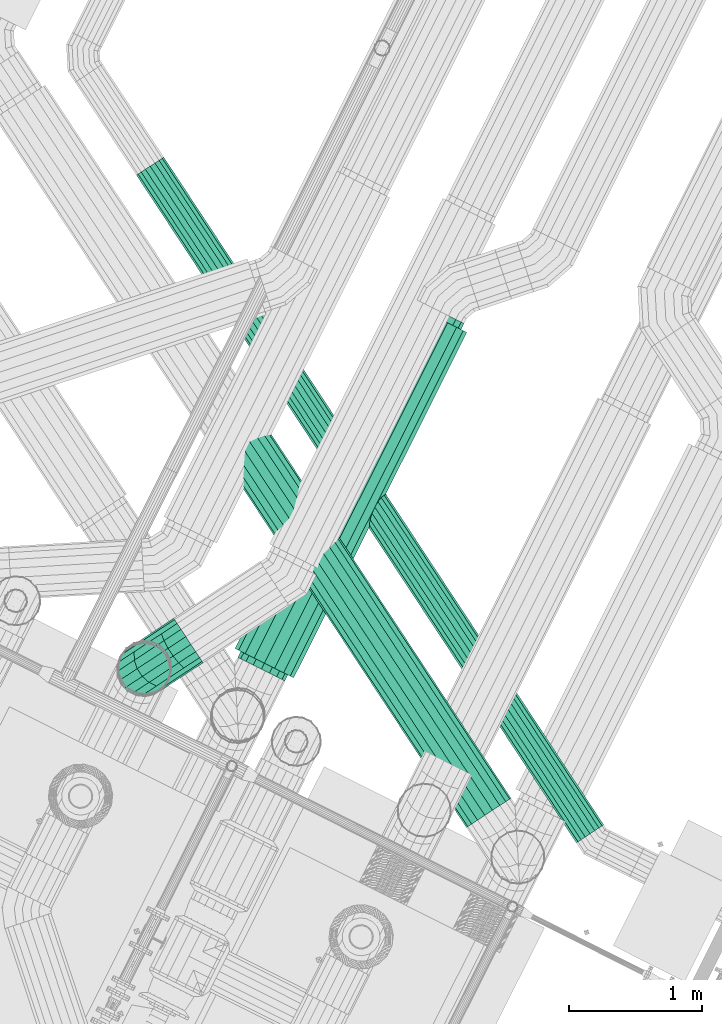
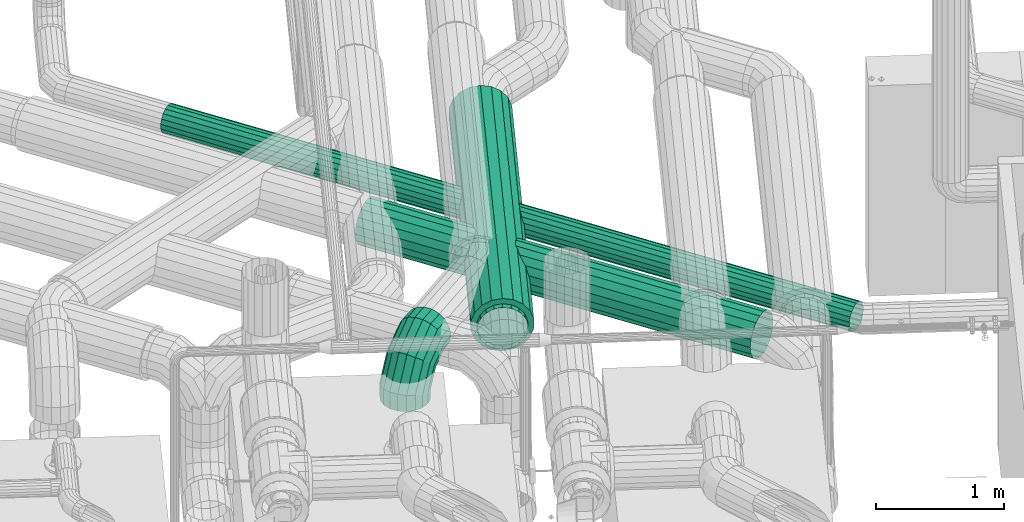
# One storey, part 17 of 206: 2 flow segments, 1 flow fitting, 1 flow treatment device.
"""IFC2X3 building model written with IfcOpenShell, lengths in metres."""

from ifc_helpers import new_model, si_unit, derived_unit, direction, frame, origin, place, context, subcontext, project, spatial, face_set, surface_model, source, transform, mapped, material, type_object, type_shapes, element, save


model = new_model("IFC2X3")

# Units and contexts
model_context = context("Model", 3, precision=5.2338327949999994e-05, world=origin(), true_north=direction((0.0, 1.0)))
body_context = subcontext(model_context, "Body", "Model", "MODEL_VIEW")
ifc_project = project(units=[si_unit("LENGTHUNIT", "METRE"), si_unit("AREAUNIT", "SQUARE_METRE"), si_unit("VOLUMEUNIT", "CUBIC_METRE"), si_unit("MASSUNIT", "GRAM", prefix="KILO"), si_unit("PLANEANGLEUNIT", "RADIAN"), derived_unit("THERMALTRANSMITTANCEUNIT", [(si_unit("MASSUNIT", "GRAM", prefix="KILO"), 1), (si_unit("THERMODYNAMICTEMPERATUREUNIT", "KELVIN"), -1), (si_unit("TIMEUNIT", "SECOND"), -3)])], contexts=[model_context])

# Site, building, storey
site_placement = place(None, frame((0.0, 0.0, 0.0), z_axis=(0.0, 0.0, 1.0), x_axis=(0.8939966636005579, -0.4480736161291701, 0.0)))
site = spatial("IfcSite", under=ifc_project, at=site_placement, Name="Default", CompositionType="ELEMENT")
building_placement = place(site_placement, origin())
building = spatial("IfcBuilding", under=site, at=building_placement, CompositionType="ELEMENT")
storey_placement = place(building_placement, origin())
storey = spatial("IfcBuildingStorey", under=building, at=storey_placement, Name="Erdgeschoss", CompositionType="ELEMENT", Elevation=0.0)

# Flow segments
ifc_material_1 = material(Name="IfcSurfaceStyle #251447")
distribution_element_type_1 = type_object("IfcDistributionElementType", Name="Wickelfalzrohr 281445:Wickelfalzrohr 281445", material=ifc_material_1)
shared_shape_1 = source(origin(), body_context, "Body", "SurfaceModel", [
    surface_model("IfcFaceBasedSurfaceModel", [(26.869098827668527, 8.45500331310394, 2.2000000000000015), (26.87512956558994, 8.465448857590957, 2.2684040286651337), (23.894257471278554, 10.186456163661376, 2.2684040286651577), (23.888226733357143, 10.17601061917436, 2.2000000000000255), (26.89249438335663, 8.495525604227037, 2.3285575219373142), (23.91162228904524, 10.216532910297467, 2.328557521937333), (26.919098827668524, 8.541605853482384, 2.3732050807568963), (23.938226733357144, 10.262613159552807, 2.373205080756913), (26.95173400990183, 8.598131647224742, 2.3969615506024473), (23.97086191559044, 10.319138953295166, 2.396961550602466), (26.98646364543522, 8.658285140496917, 2.3969615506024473), (24.005591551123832, 10.37929244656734, 2.396961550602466), (27.019098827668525, 8.714810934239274, 2.3732050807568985), (24.03822673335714, 10.4358182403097, 2.3732050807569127), (27.04570327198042, 8.760891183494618, 2.3285575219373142), (24.064831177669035, 10.48189848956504, 2.328557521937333), (27.063068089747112, 8.790967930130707, 2.2684040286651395), (24.08219599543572, 10.511975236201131, 2.268404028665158), (27.069098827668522, 8.801413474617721, 2.200000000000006), (24.088226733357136, 10.522420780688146, 2.200000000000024), (27.06306808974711, 8.790967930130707, 2.131595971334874), (24.082195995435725, 10.511975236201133, 2.13159597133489), (27.04570327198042, 8.760891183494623, 2.0714424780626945), (24.064831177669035, 10.48189848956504, 2.0714424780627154), (27.019098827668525, 8.714810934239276, 2.0267949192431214), (24.03822673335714, 10.4358182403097, 2.0267949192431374), (26.98646364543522, 8.65828514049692, 2.0030384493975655), (24.00559155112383, 10.37929244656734, 2.003038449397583), (26.95173400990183, 8.598131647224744, 2.0030384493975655), (23.97086191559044, 10.31913895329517, 2.003038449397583), (26.919098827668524, 8.54160585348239, 2.0267949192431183), (23.93822673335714, 10.262613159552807, 2.0267949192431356), (26.89249438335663, 8.495525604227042, 2.071442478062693), (23.91162228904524, 10.216532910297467, 2.0714424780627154), (26.87512956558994, 8.465448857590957, 2.131595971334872), (23.894257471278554, 10.186456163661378, 2.131595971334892)], [face_set([[[0, 1, 2, 3]], [[1, 4, 5, 2]], [[4, 6, 7, 5]], [[6, 8, 9, 7]], [[8, 10, 11, 9]], [[10, 12, 13, 11]], [[12, 14, 15, 13]], [[14, 16, 17, 15]], [[16, 18, 19, 17]], [[18, 20, 21, 19]], [[20, 22, 23, 21]], [[22, 24, 25, 23]], [[24, 26, 27, 25]], [[26, 28, 29, 27]], [[28, 30, 31, 29]], [[30, 32, 33, 31]], [[32, 34, 35, 33]], [[34, 0, 3, 35]]])]),
])
type_shapes(distribution_element_type_1, [shared_shape_1])
flow_segment_1_placement = place(storey_placement, origin())
element("IfcFlowSegment", 1, at=flow_segment_1_placement, inside=storey, type_object=distribution_element_type_1, material=ifc_material_1, Name="Wickelfalzrohr", ObjectType="Wickelfalzrohr", context=body_context, shape_type="MappedRepresentation", body=[
    mapped(shared_shape_1, transform((0.0, 0.0, 0.0), scale=1.0)),
])
distribution_element_type_2 = type_object("IfcDistributionElementType", Name="Wickelfalzrohr 284345:Wickelfalzrohr 284345", material=ifc_material_1)
shared_shape_2 = source(origin(), body_context, "Body", "SurfaceModel", [
    surface_model("IfcFaceBasedSurfaceModel", [(27.719215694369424, 8.828097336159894, 2.075), (27.697839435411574, 8.791072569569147, 2.0825384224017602), (22.501687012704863, 11.79107256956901, 2.0825384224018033), (22.523063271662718, 11.828097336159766, 2.075000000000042), (27.67904146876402, 8.758513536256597, 2.1042444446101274), (22.482889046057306, 11.758513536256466, 2.104244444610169), (27.665089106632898, 8.7343473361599, 2.137499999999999), (22.468936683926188, 11.734347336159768, 2.137500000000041), (27.657665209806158, 8.72148876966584, 2.178293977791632), (22.46151278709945, 11.721488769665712, 2.1782939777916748), (27.65766520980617, 8.721488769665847, 2.221706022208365), (22.461512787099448, 11.721488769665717, 2.2217060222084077), (27.665089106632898, 8.734347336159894, 2.2625000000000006), (22.468936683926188, 11.73434733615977, 2.262500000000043), (27.67904146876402, 8.7585135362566, 2.2957555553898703), (22.48288904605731, 11.75851353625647, 2.2957555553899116), (27.697839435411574, 8.791072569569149, 2.317461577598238), (22.501687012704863, 11.79107256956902, 2.31746157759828), (27.719215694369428, 8.828097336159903, 2.3249999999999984), (22.52306327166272, 11.82809733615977, 2.3250000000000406), (27.74059195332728, 8.86512210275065, 2.317461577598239), (22.544439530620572, 11.865122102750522, 2.31746157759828), (27.759389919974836, 8.897681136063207, 2.2957555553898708), (22.563237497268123, 11.897681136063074, 2.295755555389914), (27.77334228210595, 8.92184733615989, 2.2624999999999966), (22.577189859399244, 11.921847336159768, 2.262500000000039), (27.78076617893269, 8.934705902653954, 2.2217060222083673), (22.584613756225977, 11.934705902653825, 2.221706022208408), (27.78076617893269, 8.934705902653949, 2.1782939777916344), (22.584613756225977, 11.934705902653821, 2.1782939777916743), (27.77334228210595, 8.921847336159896, 2.137499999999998), (22.577189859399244, 11.921847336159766, 2.13750000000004), (27.759389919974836, 8.897681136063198, 2.1042444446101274), (22.563237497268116, 11.897681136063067, 2.1042444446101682), (27.740591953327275, 8.865122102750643, 2.0825384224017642), (22.544439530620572, 11.86512210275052, 2.0825384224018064)], [face_set([[[0, 1, 2, 3]], [[1, 4, 5, 2]], [[4, 6, 7, 5]], [[6, 8, 9, 7]], [[8, 10, 11, 9]], [[10, 12, 13, 11]], [[12, 14, 15, 13]], [[14, 16, 17, 15]], [[16, 18, 19, 17]], [[18, 20, 21, 19]], [[20, 22, 23, 21]], [[22, 24, 25, 23]], [[24, 26, 27, 25]], [[26, 28, 29, 27]], [[28, 30, 31, 29]], [[30, 32, 33, 31]], [[32, 34, 35, 33]], [[34, 0, 3, 35]]])]),
])
type_shapes(distribution_element_type_2, [shared_shape_2])
flow_segment_2_placement = place(storey_placement, origin())
element("IfcFlowSegment", 2, at=flow_segment_2_placement, inside=storey, type_object=distribution_element_type_2, material=ifc_material_1, Name="Wickelfalzrohr", ObjectType="Wickelfalzrohr", context=body_context, shape_type="MappedRepresentation", body=[
    mapped(shared_shape_2, transform((0.0, 0.0, 0.0), scale=1.0)),
])

# Flow treatment device
ifc_material_2 = material(Name="IfcSurfaceStyle #280217")
distribution_element_type_3 = type_object("IfcDistributionElementType", Name="Telefonieschalldämpfer 295822:Telefonieschalldämpfer 295822", material=ifc_material_2)
shared_shape_3 = source(origin(), body_context, "Body", "SurfaceModel", [
    surface_model("IfcFaceBasedSurfaceModel", [(24.96050898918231, 8.828208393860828, 2.4000000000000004), (25.028913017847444, 8.828208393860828, 2.387938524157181), (25.028913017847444, 8.878208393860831, 2.3879385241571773), (24.96050898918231, 8.878208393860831, 2.399999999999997), (25.089066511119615, 8.828208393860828, 2.353208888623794), (25.089066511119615, 8.87820839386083, 2.353208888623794), (25.133714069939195, 8.82820839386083, 2.300000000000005), (25.133714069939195, 8.878208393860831, 2.300000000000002), (25.15747053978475, 8.82820839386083, 2.2347296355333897), (25.15747053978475, 8.878208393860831, 2.2347296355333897), (25.157470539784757, 8.828208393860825, 2.165270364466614), (25.157470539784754, 8.878208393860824, 2.165270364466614), (25.133714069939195, 8.828208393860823, 2.0999999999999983), (25.133714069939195, 8.878208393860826, 2.0999999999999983), (25.089066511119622, 8.82820839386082, 2.0467911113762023), (25.08906651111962, 8.878208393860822, 2.0467911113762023), (25.028913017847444, 8.82820839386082, 2.0120614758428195), (25.028913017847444, 8.878208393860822, 2.012061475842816), (24.960508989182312, 8.82820839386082, 2.0), (24.960508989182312, 8.878208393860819, 2.0), (24.892104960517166, 8.828208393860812, 2.0120614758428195), (24.89210496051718, 8.878208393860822, 2.0120614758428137), (24.831951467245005, 8.828208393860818, 2.046791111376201), (24.831951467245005, 8.87820839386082, 2.046791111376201), (24.787303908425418, 8.82820839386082, 2.099999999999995), (24.787303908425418, 8.878208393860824, 2.099999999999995), (24.76354743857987, 8.828208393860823, 2.1652703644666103), (24.76354743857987, 8.87820839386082, 2.1652703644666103), (24.76354743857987, 8.828208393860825, 2.234729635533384), (24.763547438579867, 8.87820839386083, 2.234729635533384), (24.787303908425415, 8.828208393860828, 2.299999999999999), (24.787303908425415, 8.87820839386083, 2.299999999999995), (24.831951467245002, 8.828208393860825, 2.353208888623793), (24.831951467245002, 8.878208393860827, 2.353208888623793), (24.892104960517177, 8.828208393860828, 2.387938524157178), (24.892104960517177, 8.878208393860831, 2.3879385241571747), (24.960508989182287, 11.77820839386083, 2.399999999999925), (25.02891301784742, 11.77820839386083, 2.387938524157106), (25.02891301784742, 11.828208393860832, 2.3879385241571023), (24.960508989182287, 11.828208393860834, 2.3999999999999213), (25.089066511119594, 11.77820839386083, 2.3532088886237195), (25.089066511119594, 11.828208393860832, 2.35320888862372), (25.133714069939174, 11.77820839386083, 2.2999999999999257), (25.133714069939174, 11.828208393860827, 2.2999999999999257), (25.157470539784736, 11.77820839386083, 2.234729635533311), (25.15747053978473, 11.828208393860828, 2.2347296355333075), (25.157470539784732, 11.778208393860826, 2.165270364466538), (25.157470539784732, 11.828208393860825, 2.165270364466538), (25.133714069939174, 11.778208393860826, 2.0999999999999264), (25.133714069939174, 11.828208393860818, 2.099999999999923), (25.089066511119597, 11.778208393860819, 2.0467911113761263), (25.089066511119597, 11.828208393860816, 2.0467911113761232), (25.028913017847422, 11.77820839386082, 2.0120614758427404), (25.028913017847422, 11.828208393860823, 2.0120614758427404), (24.96050898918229, 11.778208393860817, 2.0), (24.96050898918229, 11.828208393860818, 2.0), (24.892104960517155, 11.77820839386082, 2.0120614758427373), (24.892104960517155, 11.828208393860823, 2.0120614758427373), (24.831951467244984, 11.778208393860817, 2.0467911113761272), (24.831951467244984, 11.828208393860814, 2.046791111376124), (24.7873039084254, 11.77820839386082, 2.09999999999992), (24.7873039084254, 11.828208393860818, 2.0999999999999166), (24.763547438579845, 11.77820839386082, 2.1652703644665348), (24.763547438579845, 11.828208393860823, 2.1652703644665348), (24.763547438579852, 11.778208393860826, 2.2347296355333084), (24.76354743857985, 11.828208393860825, 2.234729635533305), (24.7873039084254, 11.77820839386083, 2.299999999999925), (24.7873039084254, 11.828208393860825, 2.2999999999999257), (24.831951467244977, 11.77820839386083, 2.353208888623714), (24.831951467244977, 11.828208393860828, 2.353208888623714), (24.89210496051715, 11.77820839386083, 2.387938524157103), (24.89210496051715, 11.828208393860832, 2.3879385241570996), (24.96050898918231, 8.87820839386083, 2.4499999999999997), (25.04601402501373, 8.87820839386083, 2.4349231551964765), (25.04601402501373, 11.77820839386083, 2.4349231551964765), (24.96050898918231, 11.77820839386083, 2.4499999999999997), (25.12120589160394, 8.87820839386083, 2.3915111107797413), (25.12120589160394, 11.77820839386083, 2.3915111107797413), (25.17701534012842, 8.87820839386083, 2.3249999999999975), (25.17701534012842, 11.77820839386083, 2.3249999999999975), (25.20671092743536, 8.87820839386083, 2.24341204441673), (25.20671092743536, 11.77820839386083, 2.24341204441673), (25.20671092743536, 8.87820839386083, 2.156587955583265), (25.20671092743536, 11.77820839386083, 2.156587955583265), (25.177015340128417, 8.87820839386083, 2.0749999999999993), (25.177015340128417, 11.77820839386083, 2.0749999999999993), (25.12120589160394, 8.87820839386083, 2.0084888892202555), (25.12120589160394, 11.77820839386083, 2.0084888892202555), (25.04601402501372, 8.87820839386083, 1.9650768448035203), (25.04601402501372, 11.77820839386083, 1.9650768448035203), (24.96050898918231, 8.87820839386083, 1.9499999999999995), (24.96050898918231, 11.77820839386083, 1.9499999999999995), (24.875003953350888, 8.87820839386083, 1.965076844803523), (24.875003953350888, 11.77820839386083, 1.965076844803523), (24.799812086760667, 8.87820839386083, 2.0084888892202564), (24.799812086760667, 11.77820839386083, 2.0084888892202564), (24.74400263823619, 8.87820839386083, 2.0750000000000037), (24.74400263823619, 11.77820839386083, 2.0750000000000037), (24.714307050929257, 8.87820839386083, 2.156587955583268), (24.714307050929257, 11.77820839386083, 2.156587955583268), (24.714307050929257, 8.87820839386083, 2.2434120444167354), (24.714307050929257, 11.77820839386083, 2.2434120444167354), (24.744002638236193, 8.87820839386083, 2.3250000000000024), (24.744002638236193, 11.77820839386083, 2.3250000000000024), (24.799812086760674, 8.87820839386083, 2.3915111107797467), (24.799812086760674, 11.77820839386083, 2.3915111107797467), (24.87500395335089, 8.87820839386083, 2.4349231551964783), (24.87500395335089, 11.77820839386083, 2.4349231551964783), (24.960508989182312, 8.878208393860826, 2.199999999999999), (24.96050898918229, 11.778208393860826, 2.199999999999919)], [face_set([[[0, 1, 2, 3]], [[1, 4, 5, 2]], [[4, 6, 7, 5]], [[6, 8, 9, 7]], [[8, 10, 11, 9]], [[10, 12, 13, 11]], [[12, 14, 15, 13]], [[14, 16, 17, 15]], [[16, 18, 19, 17]], [[18, 20, 21, 19]], [[20, 22, 23, 21]], [[22, 24, 25, 23]], [[24, 26, 27, 25]], [[26, 28, 29, 27]], [[28, 30, 31, 29]], [[30, 32, 33, 31]], [[32, 34, 35, 33]], [[34, 0, 3, 35]], [[36, 37, 38, 39]], [[37, 40, 41, 38]], [[40, 42, 43, 41]], [[42, 44, 45, 43]], [[44, 46, 47, 45]], [[46, 48, 49, 47]], [[48, 50, 51, 49]], [[50, 52, 53, 51]], [[52, 54, 55, 53]], [[54, 56, 57, 55]], [[56, 58, 59, 57]], [[58, 60, 61, 59]], [[60, 62, 63, 61]], [[62, 64, 65, 63]], [[64, 66, 67, 65]], [[66, 68, 69, 67]], [[68, 70, 71, 69]], [[70, 36, 39, 71]], [[72, 73, 74, 75]], [[73, 76, 77, 74]], [[76, 78, 79, 77]], [[78, 80, 81, 79]], [[80, 82, 83, 81]], [[82, 84, 85, 83]], [[84, 86, 87, 85]], [[86, 88, 89, 87]], [[88, 90, 91, 89]], [[90, 92, 93, 91]], [[92, 94, 95, 93]], [[94, 96, 97, 95]], [[96, 98, 99, 97]], [[98, 100, 101, 99]], [[100, 102, 103, 101]], [[102, 104, 105, 103]], [[104, 106, 107, 105]], [[106, 72, 75, 107]], [[108, 73, 72]], [[108, 76, 73]], [[108, 78, 76]], [[108, 80, 78]], [[108, 82, 80]], [[108, 84, 82]], [[108, 86, 84]], [[108, 88, 86]], [[108, 90, 88]], [[108, 92, 90]], [[108, 94, 92]], [[108, 96, 94]], [[108, 98, 96]], [[108, 100, 98]], [[108, 102, 100]], [[108, 104, 102]], [[108, 106, 104]], [[108, 72, 106]], [[109, 107, 75]], [[109, 105, 107]], [[109, 103, 105]], [[109, 101, 103]], [[109, 99, 101]], [[109, 97, 99]], [[109, 95, 97]], [[109, 93, 95]], [[109, 91, 93]], [[109, 89, 91]], [[109, 87, 89]], [[109, 85, 87]], [[109, 83, 85]], [[109, 81, 83]], [[109, 79, 81]], [[109, 77, 79]], [[109, 74, 77]], [[109, 75, 74]]])]),
])
type_shapes(distribution_element_type_3, [shared_shape_3])
flow_treatment_device_placement = place(storey_placement, origin())
element("IfcFlowTreatmentDevice", 3, at=flow_treatment_device_placement, inside=storey, type_object=distribution_element_type_3, material=ifc_material_2, Name="Telefonieschalldämpfer", ObjectType="Telefonieschalldämpfer", context=body_context, shape_type="MappedRepresentation", body=[
    mapped(shared_shape_3, transform((0.0, 0.0, 0.0), scale=1.0)),
])

# Flow fitting
distribution_element_type_4 = type_object("IfcDistributionElementType", Name="Segmentbogen 4 teilig 621969:Segmentbogen 4 teilig 621969", material=ifc_material_1)
shared_shape_4 = source(origin(), body_context, "Body", "SurfaceModel", [
    surface_model("IfcFaceBasedSurfaceModel", [(24.201616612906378, 8.874618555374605, 2.2600000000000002), (24.212062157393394, 8.868587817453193, 2.191595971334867), (24.167636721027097, 8.791640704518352, 2.1915959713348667), (24.148026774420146, 8.781798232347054, 2.26), (24.242138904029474, 8.851222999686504, 2.131442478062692), (24.20577250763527, 8.788234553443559, 2.1314424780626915), (24.28821915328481, 8.824618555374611, 2.0867949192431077), (24.257834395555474, 8.771990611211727, 2.0867949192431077), (24.344744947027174, 8.791983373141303, 2.063038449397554), (24.3175429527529, 8.744868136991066, 2.063038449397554), (24.404898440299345, 8.75725373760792, 2.0630384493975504), (24.377696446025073, 8.710138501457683, 2.06303844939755), (24.461424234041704, 8.724618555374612, 2.086794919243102), (24.431039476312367, 8.671990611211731, 2.0867949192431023), (24.507504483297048, 8.698014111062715, 2.1314424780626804), (24.47113808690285, 8.63502566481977, 2.1314424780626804), (24.537581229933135, 8.680649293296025, 2.191595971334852), (24.493155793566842, 8.603702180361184, 2.191595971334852), (24.54802677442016, 8.674618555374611, 2.259999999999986), (24.494436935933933, 8.58179823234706, 2.2600000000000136), (24.537581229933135, 8.680649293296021, 2.328404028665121), (24.47482698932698, 8.571955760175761, 2.328404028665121), (24.50750448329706, 8.69801411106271, 2.3885575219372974), (24.43669120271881, 8.575361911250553, 2.3885575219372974), (24.46142423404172, 8.724618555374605, 2.4332050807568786), (24.384629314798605, 8.591605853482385, 2.4332050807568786), (24.404898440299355, 8.757253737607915, 2.4569615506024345), (24.32492075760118, 8.61872832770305, 2.456961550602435), (24.34474494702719, 8.791983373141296, 2.4569615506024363), (24.26476726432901, 8.65345796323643, 2.4569615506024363), (24.288219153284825, 8.824618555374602, 2.433205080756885), (24.211424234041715, 8.691605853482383, 2.433205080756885), (24.24213890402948, 8.8512229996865, 2.388557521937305), (24.17132562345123, 8.728570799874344, 2.388557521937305), (24.21206215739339, 8.868587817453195, 2.328404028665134), (24.149307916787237, 8.759894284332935, 2.328404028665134), (24.09068960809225, 8.658364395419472, 2.1027450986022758), (24.0552064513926, 8.621028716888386, 2.1528203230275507), (24.14278406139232, 8.679135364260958, 2.058709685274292), (24.20520645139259, 8.680836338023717, 2.026025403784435), (24.270427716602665, 8.663262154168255, 2.008634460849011), (24.330581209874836, 8.628532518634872, 2.008634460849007), (24.37841153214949, 8.58083633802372, 2.026025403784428), (24.408149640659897, 8.52592647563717, 2.0587096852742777), (24.416208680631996, 8.4704258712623, 2.1027450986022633), (24.401616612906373, 8.421028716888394, 2.1528203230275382), (24.36613345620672, 8.383693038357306, 2.2028955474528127), (24.314039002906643, 8.362922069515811, 2.2469309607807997), (24.251616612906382, 8.361221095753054, 2.279615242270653), (24.18639534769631, 8.378795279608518, 2.297006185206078), (24.126241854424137, 8.4135249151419, 2.297006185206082), (24.078411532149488, 8.461221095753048, 2.2796152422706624), (24.04867342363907, 8.5161309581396, 2.246930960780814), (24.040614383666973, 8.571631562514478, 2.2028955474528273), (24.046264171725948, 8.581417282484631, 1.948850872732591), (24.001616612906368, 8.528208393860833, 1.96717967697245), (24.10641766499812, 8.616146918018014, 1.9327327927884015), (24.174821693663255, 8.628208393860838, 1.9207695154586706), (24.24322572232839, 8.616146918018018, 1.9144039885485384), (24.30337921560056, 8.581417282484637, 1.9144039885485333), (24.348026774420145, 8.52820839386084, 1.9207695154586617), (24.371783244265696, 8.462938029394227, 1.932732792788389), (24.371783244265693, 8.393478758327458, 1.9488508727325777), (24.348026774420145, 8.328208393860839, 1.967179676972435), (24.303379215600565, 8.274999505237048, 1.9855084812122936), (24.24322572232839, 8.240269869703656, 2.001626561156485), (24.174821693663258, 8.228208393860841, 2.013589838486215), (24.10641766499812, 8.24026986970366, 2.0199553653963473), (24.046264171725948, 8.27499950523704, 2.0199553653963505), (24.001616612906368, 8.328208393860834, 2.0135898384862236), (23.977860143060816, 8.393478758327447, 2.001626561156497), (23.977860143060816, 8.462938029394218, 1.9855084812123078), (24.046264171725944, 8.58141728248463, 1.8600000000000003), (24.00161661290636, 8.52820839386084, 1.8600000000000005), (24.106417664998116, 8.616146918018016, 1.8599999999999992), (24.174821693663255, 8.628208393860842, 1.8599999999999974), (24.243225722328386, 8.616146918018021, 1.8599999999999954), (24.303379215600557, 8.581417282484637, 1.8599999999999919), (24.348026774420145, 8.528208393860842, 1.8599999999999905), (24.371783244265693, 8.46293802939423, 1.859999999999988), (24.37178324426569, 8.39347875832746, 1.8599999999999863), (24.348026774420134, 8.328208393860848, 1.8599999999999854), (24.303379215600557, 8.274999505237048, 1.8599999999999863), (24.243225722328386, 8.240269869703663, 1.859999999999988), (24.17482169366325, 8.228208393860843, 1.8599999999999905), (24.106417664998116, 8.240269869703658, 1.8599999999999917), (24.046264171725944, 8.274999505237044, 1.8599999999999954), (24.00161661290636, 8.328208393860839, 1.8599999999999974), (23.977860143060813, 8.393478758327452, 1.8599999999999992), (23.977860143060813, 8.462938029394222, 1.8600000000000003)], [face_set([[[0, 1, 2, 3]], [[1, 4, 5, 2]], [[4, 6, 7, 5]], [[6, 8, 9, 7]], [[8, 10, 11, 9]], [[10, 12, 13, 11]], [[12, 14, 15, 13]], [[14, 16, 17, 15]], [[16, 18, 19, 17]], [[18, 20, 21, 19]], [[20, 22, 23, 21]], [[22, 24, 25, 23]], [[24, 26, 27, 25]], [[26, 28, 29, 27]], [[28, 30, 31, 29]], [[30, 32, 33, 31]], [[32, 34, 35, 33]], [[34, 0, 3, 35]], [[3, 2, 36, 37]], [[2, 5, 38, 36]], [[5, 7, 39, 38]], [[7, 9, 40, 39]], [[9, 11, 41, 40]], [[11, 13, 42, 41]], [[13, 15, 43, 42]], [[15, 17, 44, 43]], [[17, 19, 45, 44]], [[19, 21, 46, 45]], [[21, 23, 47, 46]], [[23, 25, 48, 47]], [[25, 27, 49, 48]], [[27, 29, 50, 49]], [[29, 31, 51, 50]], [[31, 33, 52, 51]], [[33, 35, 53, 52]], [[35, 3, 37, 53]], [[37, 36, 54, 55]], [[36, 38, 56, 54]], [[38, 39, 57, 56]], [[39, 40, 58, 57]], [[40, 41, 59, 58]], [[41, 42, 60, 59]], [[42, 43, 61, 60]], [[43, 44, 62, 61]], [[44, 45, 63, 62]], [[45, 46, 64, 63]], [[46, 47, 65, 64]], [[47, 48, 66, 65]], [[48, 49, 67, 66]], [[49, 50, 68, 67]], [[50, 51, 69, 68]], [[51, 52, 70, 69]], [[52, 53, 71, 70]], [[53, 37, 55, 71]], [[55, 54, 72, 73]], [[54, 56, 74, 72]], [[56, 57, 75, 74]], [[57, 58, 76, 75]], [[58, 59, 77, 76]], [[59, 60, 78, 77]], [[60, 61, 79, 78]], [[61, 62, 80, 79]], [[62, 63, 81, 80]], [[63, 64, 82, 81]], [[64, 65, 83, 82]], [[65, 66, 84, 83]], [[66, 67, 85, 84]], [[67, 68, 86, 85]], [[68, 69, 87, 86]], [[69, 70, 88, 87]], [[70, 71, 89, 88]], [[71, 55, 73, 89]]])]),
])
type_shapes(distribution_element_type_4, [shared_shape_4])
flow_fitting_placement = place(storey_placement, origin())
element("IfcFlowFitting", 4, at=flow_fitting_placement, inside=storey, type_object=distribution_element_type_4, material=ifc_material_1, Name="Segmentbogen 4 teilig", ObjectType="Segmentbogen 4 teilig", context=body_context, shape_type="MappedRepresentation", body=[
    mapped(shared_shape_4, transform((0.0, 0.0, 0.0), scale=1.0)),
])

save(model, "model.ifc")
